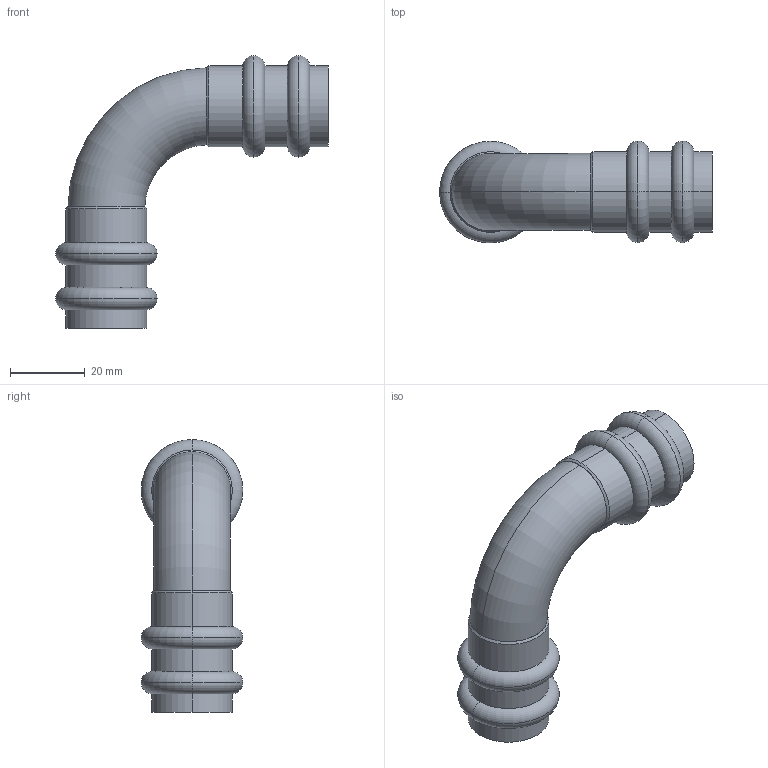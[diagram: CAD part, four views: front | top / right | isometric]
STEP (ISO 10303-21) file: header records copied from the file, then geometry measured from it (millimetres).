
FILE_DESCRIPTION(('starvars output'),'1');
FILE_NAME('cv20240422104919000011571.stp','10:49:19 2024/04/22',('Thomas Industrial Network Germany GmbH'),(' '),'Spatial InterOp 3D',' ',' ');
FILE_SCHEMA(('AUTOMOTIVE_DESIGN { 1 0 10303 214 3 1 1 }'));
Length unit declared in the file: millimetre
Products named in the file (1): 1
Bounding box: 73.1 x 27.2 x 73.1 mm (x, y, z)
Volume: 10620.4 mm3; surface area: 15787.6 mm2
Topology: 1 solids, 1 shells, 70 faces, 140 edges, 88 vertices
Faces by surface type: torus 28, cylinder 20, plane 18, cone 4
Entity records: 2724 total; most frequent: CARTESIAN_POINT 575, DIRECTION 390, ORIENTED_EDGE 280, AXIS2_PLACEMENT_3D 183, EDGE_CURVE 140, CIRCLE 112, EDGE_LOOP 88, VERTEX_POINT 88
